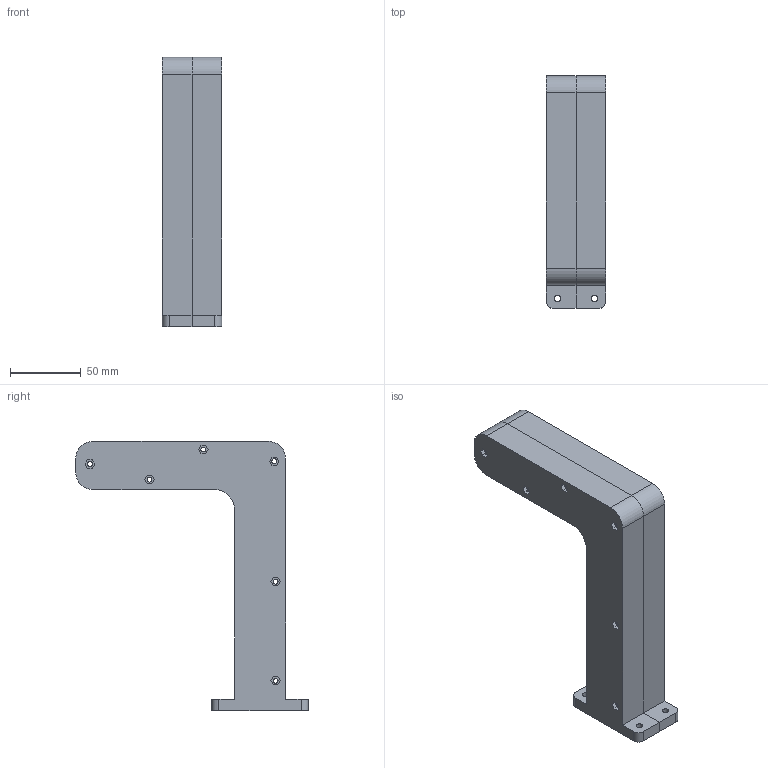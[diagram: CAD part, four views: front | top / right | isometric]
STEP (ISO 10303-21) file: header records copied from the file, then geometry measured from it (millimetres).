
FILE_DESCRIPTION(('FreeCAD Model'),'2;1');
FILE_NAME('Open CASCADE Shape Model','2026-10-31T13:28:37',('FreeCAD'),( 'FreeCAD'),'Open CASCADE STEP processor 7.8','FreeCAD','Unknown');
FILE_SCHEMA(('AUTOMOTIVE_DESIGN { 1 0 10303 214 1 1 1 1 }'));
Length unit declared in the file: millimetre
Products named in the file (1): Open CASCADE STEP translator 7.8 1
Bounding box: 42 x 164 x 190 mm (x, y, z)
Volume: 136608.5 mm3; surface area: 106267.3 mm2
Topology: 2 solids, 2 shells, 171 faces, 463 edges, 312 vertices
Faces by surface type: plane 108, cylinder 58, torus 3, extrusion 2
Full cylindrical faces by diameter (mm): 3.4 x12, 4.5 x4, 6 x6, 11 x4
Entity records: 6744 total; most frequent: CARTESIAN_POINT 2240, ORIENTED_EDGE 926, DIRECTION 922, EDGE_CURVE 463, VECTOR 318, LINE 316, VERTEX_POINT 312, AXIS2_PLACEMENT_3D 302
